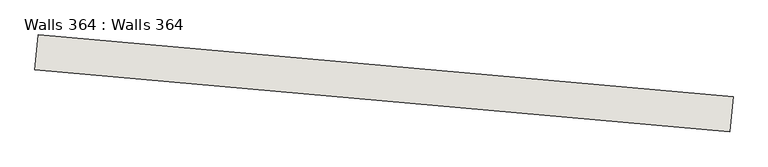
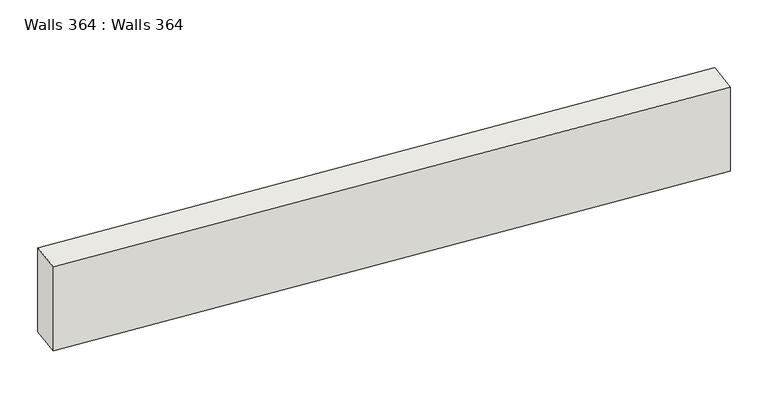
"""IFC4 building model written with IfcOpenShell, lengths in millimetres: wall geometry, Walls 364 : Walls 364."""

from ifc_helpers import new_model, si_unit, frame, origin, place, context, project, spatial, polyline, outline, extrude, source, transform, mapped, element, save


def walls_364_walls_364_5f8cc3f3(model_context):
    return source(origin(), model_context, "Body", "SweptSolid", [
        extrude(outline(polyline([(-698538.9561081, -416446.9401964), (-698574.4510382, -416845.3622213), (-706542.8915365, -416135.4636201), (-706507.3966064, -415737.0415952), (-698538.9561081, -416446.9401964)])), frame((0.0, 0.0, 635360.0), z_axis=(0.0, 0.0, 1.0), x_axis=(1.0, 0.0, 0.0)), (0.0, 0.0, 1.0), 1100.0),
    ])


if __name__ == "__main__":
    model = new_model("IFC4")
    model_context = context("Model", 3, world=origin())
    ifc_project = project(units=[si_unit("LENGTHUNIT", "METRE", prefix="MILLI")], contexts=[model_context])
    site = spatial("IfcSite", under=ifc_project)
    building = spatial("IfcBuilding", under=site)
    placement = place(None, origin())
    walls_364_walls_364_shape = walls_364_walls_364_5f8cc3f3(model_context)
    element("IfcWall", 1, ObjectType="Walls 364 : Walls 364", at=placement, inside=building, context=model_context, shape_type="MappedRepresentation", body=[
        mapped(walls_364_walls_364_shape, transform((0.0, 0.0, 0.0), x_axis=(1.0, 0.0, 0.0), y_axis=(0.0, 1.0, 0.0), z_axis=(0.0, 0.0, 1.0))),
    ])
    save(model, "model.ifc")
